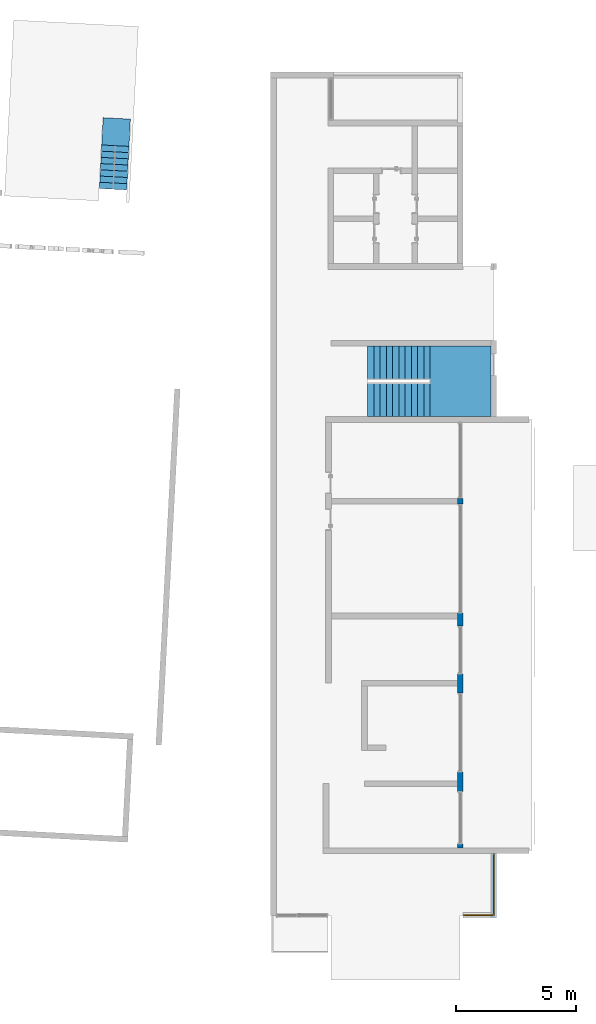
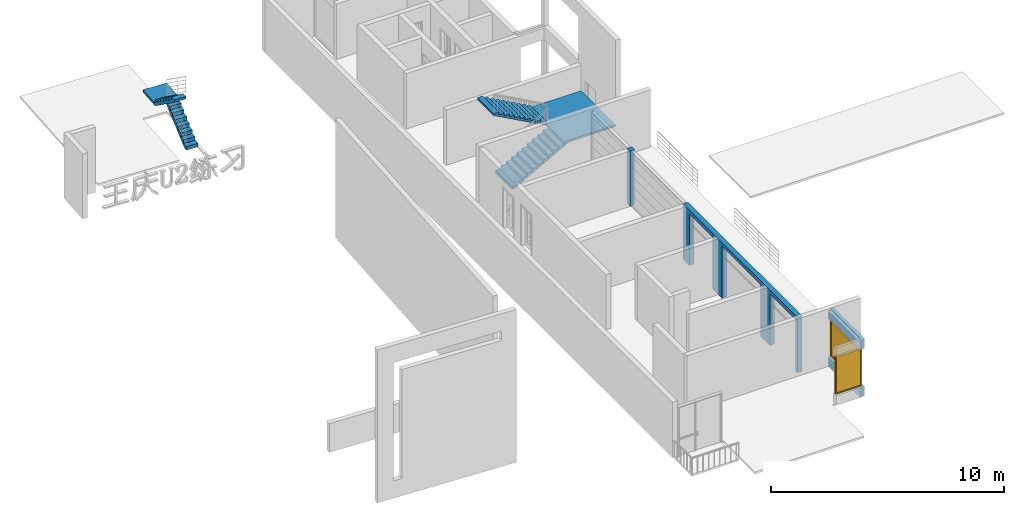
# One storey, part 12 of 16: 2 stair flights, 1 wall, 1 window, 1 opening, 2 elements without a shape of their own, plus 1 element that does not belong to this part.
"""IFC2X3 building model written with IfcOpenShell, lengths in millimetres."""

import ifcopenshell
import ifcopenshell.guid

model = None  # the IFC model being written
_history = None  # IfcOwnerHistory: only IFC2X3 demands one
_inside = {}  # id of a spatial element -> (the spatial element, [elements in it])
_under = {}  # id of a project, library or spatial element -> (it, [spatial elements below it])
_declared = {}  # id of a project -> (the project, [libraries it declares])
_typed = {}  # id of a type object -> (the type object, [elements of that type])
_made_of = {}  # id of a material, layer set ... -> (it, [elements and type objects made of it])


def new_model(schema):
    """Start an empty IFC model of exactly this schema.

    Asked for "IFC4X3", IfcOpenShell would pick the latest addendum, in which some entities
    have other attributes; the version numbers below select the first issue.
    IFC2X3 requires an IfcOwnerHistory on every rooted entity: one is made here for all.
    """
    global model, _history
    if schema == "IFC4X3":
        model = ifcopenshell.file(schema_version=(4, 3, 0, 0))
    else:
        model = ifcopenshell.file(schema=schema)
    _inside.clear()
    _under.clear()
    _declared.clear()
    _typed.clear()
    _made_of.clear()
    _history = None
    if model.schema == "IFC2X3":
        org = make("IfcOrganization", Name="unknown")
        user = make(
            "IfcPersonAndOrganization",
            ThePerson=make("IfcPerson", FamilyName="unknown"),
            TheOrganization=org,
        )
        app = make(
            "IfcApplication",
            ApplicationDeveloper=org,
            Version="unknown",
            ApplicationFullName="unknown",
            ApplicationIdentifier="unknown",
        )
        _history = make(
            "IfcOwnerHistory",
            OwningUser=user,
            OwningApplication=app,
            ChangeAction="ADDED",
            CreationDate=0,
        )
    return model


def make(cls, **values):
    """One entity of the class cls with the attributes given. An attribute that is None is left unset."""
    return model.create_entity(
        cls, **{name: value for name, value in values.items() if value is not None}
    )


def entity(cls, *values):
    """Any entity or typed value of the class cls, its attributes in the order of the schema. None: left unset."""
    e = model.create_entity(cls)
    for i, value in enumerate(values):
        if value is not None:
            e[i] = value
    return e


def rooted(cls, **values):
    """An entity with a GlobalId (a new one), such as an element, a storey or a relation."""
    return make(cls, GlobalId=ifcopenshell.guid.new(), OwnerHistory=_history, **values)


def si_unit(unit_type, name, prefix=None):
    """IfcSIUnit, for example si_unit("LENGTHUNIT", "METRE", prefix="MILLI")."""
    return make("IfcSIUnit", UnitType=unit_type, Prefix=prefix, Name=name)


def converted_unit(unit_type, name, factor, base, dimensions=None, offset=None):
    """IfcConversionBasedUnit, such as the inch: factor (a typed value) times the base unit."""
    return make(
        "IfcConversionBasedUnit"
        if offset is None
        else "IfcConversionBasedUnitWithOffset",
        ConversionOffset=offset,
        Dimensions=None
        if dimensions is None
        else entity("IfcDimensionalExponents", *dimensions),
        UnitType=unit_type,
        Name=name,
        ConversionFactor=make(
            "IfcMeasureWithUnit", ValueComponent=factor, UnitComponent=base
        ),
    )


def derived_unit(unit_type, elements):
    """IfcDerivedUnit: a product of units, each with its exponent."""
    return make(
        "IfcDerivedUnit",
        Elements=[
            make("IfcDerivedUnitElement", Unit=unit, Exponent=power)
            for unit, power in elements
        ],
        UnitType=unit_type,
    )


def assignment(units):
    """IfcUnitAssignment: the units of a project."""
    return None if units is None else make("IfcUnitAssignment", Units=units)


def point(xyz):
    """IfcCartesianPoint."""
    return None if xyz is None else make("IfcCartesianPoint", Coordinates=xyz)


def direction(xyz):
    """IfcDirection."""
    return None if xyz is None else make("IfcDirection", DirectionRatios=xyz)


def frame(location, z_axis=None, x_axis=None):
    """IfcAxis2Placement3D, a coordinate frame: its origin and axes. An axis left out is left unset."""
    return make(
        "IfcAxis2Placement3D",
        Location=point(location),
        Axis=direction(z_axis),
        RefDirection=direction(x_axis),
    )


def frame_2d(location, x_axis=None):
    """IfcAxis2Placement2D, a coordinate frame in the plane: its origin and x axis."""
    return make(
        "IfcAxis2Placement2D", Location=point(location), RefDirection=direction(x_axis)
    )


def origin():
    """The frame at (0, 0, 0) with its axes left unset."""
    return frame((0.0, 0.0, 0.0))


def place(relative_to, where):
    """IfcLocalPlacement: puts the frame where relative to a parent placement (None: the world)."""
    return make(
        "IfcLocalPlacement", PlacementRelTo=relative_to, RelativePlacement=where
    )


def context(
    kind, dimensions, precision=None, world=None, true_north=None, identifier=None
):
    """IfcGeometricRepresentationContext, for example the 3D "Model" context."""
    return make(
        "IfcGeometricRepresentationContext",
        ContextIdentifier=identifier,
        ContextType=kind,
        CoordinateSpaceDimension=dimensions,
        Precision=precision,
        WorldCoordinateSystem=world,
        TrueNorth=true_north,
    )


def subcontext(parent, identifier, kind, view, scale=None):
    """IfcGeometricRepresentationSubContext, for example "Body" below "Model"."""
    return make(
        "IfcGeometricRepresentationSubContext",
        ContextIdentifier=identifier,
        ContextType=kind,
        ParentContext=parent,
        TargetScale=scale,
        TargetView=view,
    )


def project(units=None, contexts=None):
    """IfcProject with its units and contexts."""
    return rooted(
        "IfcProject",
        Name="project",
        RepresentationContexts=contexts,
        UnitsInContext=assignment(units),
    )


def spatial(cls, under=None, at=None, **own):
    """A site, building, storey or space (cls), placed at a placement, below another one or the project."""
    s = rooted(cls, ObjectPlacement=at, **own)
    if under is not None:
        _under.setdefault(under.id(), (under, []))[1].append(s)
    return s


def polyline(points):
    """IfcPolyline through the points."""
    return make("IfcPolyline", Points=[point(p) for p in points])


def profile(cls, at=None, kind="AREA", **sizes):
    """A parametric profile (cls). Its sizes go by their IFC names, for example OverallWidth=200.0."""
    return make(cls, ProfileType=kind, Position=at, **sizes)


def rectangle(**sizes):
    """IfcRectangleProfileDef."""
    return profile("IfcRectangleProfileDef", **sizes)


def extrude(swept, where, along, depth):
    """IfcExtrudedAreaSolid: the profile swept, set in the frame where, extruded along a direction by depth."""
    return make(
        "IfcExtrudedAreaSolid",
        SweptArea=swept,
        Position=where,
        ExtrudedDirection=direction(along),
        Depth=depth,
    )


def clip(a, b, op="DIFFERENCE"):
    """IfcBooleanClippingResult: the solid a cut by the half space b."""
    return make(
        "IfcBooleanClippingResult", Operator=op, FirstOperand=a, SecondOperand=b
    )


def bounded_halfspace(plane, agree, where, boundary):
    """IfcPolygonalBoundedHalfSpace: a half space limited to a polygon's prism."""
    return make(
        "IfcPolygonalBoundedHalfSpace",
        BaseSurface=make("IfcPlane", Position=plane),
        AgreementFlag=agree,
        Position=where,
        PolygonalBoundary=boundary,
    )


def faces_of(points, faces, orient=None, outer=None):
    """IfcFace entities. A face is a list of loops; a loop is a list of indices into points, from 0.

    orient and outer hold one flag for each loop. By default every Orientation is true, the
    first loop of a face is its IfcFaceOuterBound and the others are IfcFaceBound.
    """
    made = []
    for i, loops in enumerate(faces):
        bounds = []
        for j, loop in enumerate(loops):
            is_outer = j == 0 if outer is None else outer[i][j]
            bounds.append(
                make(
                    "IfcFaceOuterBound" if is_outer else "IfcFaceBound",
                    Bound=make("IfcPolyLoop", Polygon=[points[k] for k in loop]),
                    Orientation=True if orient is None else orient[i][j],
                )
            )
        made.append(make("IfcFace", Bounds=bounds))
    return made


def faceted_brep(points, faces, orient=None, outer=None, voids=None):
    """IfcFacetedBrep: a solid bounded by flat faces; with voids (closed shells), ...WithVoids."""
    shared = [point(p) for p in points]
    hull = make("IfcClosedShell", CfsFaces=faces_of(shared, faces, orient, outer))
    if voids is None:
        return make("IfcFacetedBrep", Outer=hull)
    return make(
        "IfcFacetedBrepWithVoids",
        Outer=hull,
        Voids=[
            make(cls, CfsFaces=faces_of(shared, fs, o, b)) for cls, fs, o, b in voids
        ],
    )


def shape(context_of_items, identifier, shape_type, items):
    """IfcShapeRepresentation: the items that make up one representation, for example the "Body"."""
    return make(
        "IfcShapeRepresentation",
        ContextOfItems=context_of_items,
        RepresentationIdentifier=identifier,
        RepresentationType=shape_type,
        Items=items,
    )


def source(mapping_origin, context_of_items, identifier, shape_type, items):
    """IfcRepresentationMap: a shape defined once, which mapped items show again and again."""
    return make(
        "IfcRepresentationMap",
        MappingOrigin=mapping_origin,
        MappedRepresentation=shape(context_of_items, identifier, shape_type, items),
    )


def transform(
    local_origin,
    x_axis=None,
    y_axis=None,
    z_axis=None,
    scale=None,
    scale2=None,
    scale3=None,
    uniform=True,
):
    """IfcCartesianTransformationOperator3D, or its non-uniform kind. x_axis, y_axis, z_axis: its Axis1, 2, 3."""
    if uniform:
        return make(
            "IfcCartesianTransformationOperator3D",
            Axis1=direction(x_axis),
            Axis2=direction(y_axis),
            LocalOrigin=point(local_origin),
            Scale=scale,
            Axis3=direction(z_axis),
        )
    return make(
        "IfcCartesianTransformationOperator3DnonUniform",
        Axis1=direction(x_axis),
        Axis2=direction(y_axis),
        LocalOrigin=point(local_origin),
        Scale=scale,
        Axis3=direction(z_axis),
        Scale2=scale2,
        Scale3=scale3,
    )


def mapped(mapping_source, mapping_target):
    """IfcMappedItem: shows the shape of a source again, moved by a transform."""
    return make(
        "IfcMappedItem", MappingSource=mapping_source, MappingTarget=mapping_target
    )


def material(Name=None, Category=None):
    """IfcMaterial."""
    return make("IfcMaterial", Name=Name, Category=Category)


def material_list(materials):
    """IfcMaterialList."""
    return make("IfcMaterialList", Materials=materials)


def layer(
    of_material, thickness, ventilated=None, Name=None, Category=None, Priority=None
):
    """IfcMaterialLayer: one layer of a wall or slab, of a material (None: an air gap)."""
    return make(
        "IfcMaterialLayer",
        Material=of_material,
        LayerThickness=thickness,
        IsVentilated=ventilated,
        Name=Name,
        Category=Category,
        Priority=Priority,
    )


def layer_set(layers, Name=None):
    """IfcMaterialLayerSet."""
    return make("IfcMaterialLayerSet", MaterialLayers=layers, LayerSetName=Name)


def layer_usage(for_layer_set, set_direction, sense, offset, extent=None):
    """IfcMaterialLayerSetUsage: how a layer set lies in its element."""
    return make(
        "IfcMaterialLayerSetUsage",
        ForLayerSet=for_layer_set,
        LayerSetDirection=set_direction,
        DirectionSense=sense,
        OffsetFromReferenceLine=offset,
        ReferenceExtent=extent,
    )


def made_of(thing, what):
    """Note that an element or type object is made of a material, layer set ...; save() writes the relation."""
    if what is not None:
        _made_of.setdefault(what.id(), (what, []))[1].append(thing)
    return thing


def type_object(cls, material=None, **own):
    """A type object (cls), such as IfcWallType, which elements share."""
    return made_of(rooted(cls, **own), material)


def type_shapes(of_type, sources):
    """Give a type object the sources (RepresentationMaps) that its elements show as mapped items."""
    of_type.RepresentationMaps = sources


def element(
    cls,
    number,
    at=None,
    inside=None,
    cuts=None,
    type_object=None,
    material=None,
    context=None,
    identifier="Body",
    shape_type=None,
    held_by="IfcProductDefinitionShape",
    body=None,
    shapes=None,
    **own,
):
    """One element of the class cls, such as IfcWall. Its Tag is "e" and its number.

    at: its placement. inside: the storey or other place that contains it. cuts: it is an
    opening in that element (IfcRelVoidsElement). A single representation is given by context,
    identifier, shape_type and body (its items); several are given by shapes. held_by: the class
    of the entity that holds the representations. save() writes the other relations.
    """
    e = rooted(cls, Tag="e%d" % number, ObjectPlacement=at, **own)
    if body is not None:
        shapes = [shape(context, identifier, shape_type, body)]
    if shapes is not None:
        e.Representation = make(held_by, Representations=shapes)
    if inside is not None:
        _inside.setdefault(inside.id(), (inside, []))[1].append(e)
    if cuts is not None:
        rooted(
            "IfcRelVoidsElement", RelatingBuildingElement=cuts, RelatedOpeningElement=e
        )
    if type_object is not None:
        _typed.setdefault(type_object.id(), (type_object, []))[1].append(e)
    return made_of(e, material)


def fill(opening, filler):
    """IfcRelFillsElement: the door or window that sits in an opening."""
    return rooted(
        "IfcRelFillsElement",
        RelatingOpeningElement=opening,
        RelatedBuildingElement=filler,
    )


def aggregate(whole, parts):
    """IfcRelAggregates: a whole, such as a stair, and the parts it consists of."""
    return rooted("IfcRelAggregates", RelatingObject=whole, RelatedObjects=parts)


def save(model, path):
    """Write the relations noted so far, then the file.

    IfcRelAggregates (storeys below a building ...), IfcRelContainedInSpatialStructure (elements
    in a storey), IfcRelDefinesByType, IfcRelAssociatesMaterial and IfcRelDeclares: one each for
    every whole, place, type object, material and project.
    """
    for whole, parts in _under.values():
        aggregate(whole, parts)
    for where, things in _inside.values():
        rooted(
            "IfcRelContainedInSpatialStructure",
            RelatedElements=things,
            RelatingStructure=where,
        )
    for kind, things in _typed.values():
        rooted("IfcRelDefinesByType", RelatedObjects=things, RelatingType=kind)
    for what, things in _made_of.values():
        rooted("IfcRelAssociatesMaterial", RelatedObjects=things, RelatingMaterial=what)
    for by, libraries in _declared.values():
        rooted("IfcRelDeclares", RelatingContext=by, RelatedDefinitions=libraries)
    model.write(path)


model = new_model("IFC2X3")

# Units and contexts
model_context = context("Model", 3, precision=0.01, world=origin(), true_north=direction((6.12303176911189e-17, 1.0)))
body_context = subcontext(model_context, "Body", "Model", "MODEL_VIEW")
ifc_project = project(units=[si_unit("LENGTHUNIT", "METRE", prefix="MILLI"), si_unit("AREAUNIT", "SQUARE_METRE"), si_unit("VOLUMEUNIT", "CUBIC_METRE"), converted_unit("PLANEANGLEUNIT", "DEGREE", entity("IfcRatioMeasure", 0.0174532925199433), si_unit("PLANEANGLEUNIT", "RADIAN"), dimensions=[0, 0, 0, 0, 0, 0, 0]), si_unit("MASSUNIT", "GRAM", prefix="KILO"), derived_unit("MASSDENSITYUNIT", [(si_unit("MASSUNIT", "GRAM", prefix="KILO"), 1), (si_unit("LENGTHUNIT", "METRE"), -3)]), si_unit("TIMEUNIT", "SECOND"), si_unit("FREQUENCYUNIT", "HERTZ"), si_unit("THERMODYNAMICTEMPERATUREUNIT", "DEGREE_CELSIUS"), derived_unit("THERMALTRANSMITTANCEUNIT", [(si_unit("MASSUNIT", "GRAM", prefix="KILO"), 1), (si_unit("THERMODYNAMICTEMPERATUREUNIT", "KELVIN"), -1), (si_unit("TIMEUNIT", "SECOND"), -3)]), derived_unit("VOLUMETRICFLOWRATEUNIT", [(si_unit("LENGTHUNIT", "METRE"), 3), (si_unit("TIMEUNIT", "SECOND"), -1)]), si_unit("ELECTRICCURRENTUNIT", "AMPERE"), si_unit("ELECTRICVOLTAGEUNIT", "VOLT"), si_unit("POWERUNIT", "WATT"), si_unit("FORCEUNIT", "NEWTON", prefix="KILO"), si_unit("ILLUMINANCEUNIT", "LUX"), si_unit("LUMINOUSFLUXUNIT", "LUMEN"), si_unit("LUMINOUSINTENSITYUNIT", "CANDELA"), derived_unit("USERDEFINED", [(si_unit("MASSUNIT", "GRAM", prefix="KILO"), -1), (si_unit("LENGTHUNIT", "METRE"), -2), (si_unit("TIMEUNIT", "SECOND"), 3), (si_unit("LUMINOUSFLUXUNIT", "LUMEN"), 1)]), derived_unit("LINEARVELOCITYUNIT", [(si_unit("LENGTHUNIT", "METRE"), 1), (si_unit("TIMEUNIT", "SECOND"), -1)]), si_unit("PRESSUREUNIT", "PASCAL"), derived_unit("USERDEFINED", [(si_unit("LENGTHUNIT", "METRE"), -2), (si_unit("MASSUNIT", "GRAM", prefix="KILO"), 1), (si_unit("TIMEUNIT", "SECOND"), -2)])], contexts=[model_context])

# Site, building, storey
site_placement = place(None, origin())
site = spatial("IfcSite", under=ifc_project, at=site_placement, Name="表面", CompositionType="ELEMENT")
building_placement = place(site_placement, origin())
building = spatial("IfcBuilding", under=site, at=building_placement, CompositionType="ELEMENT")
storey_placement = place(building_placement, frame((0.0, 0.0, 3000.0)))
storey = spatial("IfcBuildingStorey", under=building, at=storey_placement, Name="2F", CompositionType="ELEMENT", Elevation=3000.00000000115)

# Wall
ifc_material_1 = material(Name="白色涂料")
ifc_layer_1 = layer(ifc_material_1, 10.0)
ifc_material_2 = material(Name="默认墙")
ifc_layer_2 = layer(ifc_material_2, 220.0)
ifc_layer_3 = layer(ifc_material_1, 10.0)
ifc_layer_set = layer_set([ifc_layer_1, ifc_layer_2, ifc_layer_3], Name="基本墙:粉刷墙240")
wall_type = type_object("IfcWallType", Name="基本墙:粉刷墙240", PredefinedType="STANDARD", material=ifc_layer_set)
wall_1_placement = place(storey_placement, frame((-6630.24991264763, -11996.868426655, 0.0), z_axis=(0.0, 0.0, 1.0), x_axis=(0.0, -1.0, 0.0)))
element("IfcWall", 1, at=wall_1_placement, inside=storey, type_object=wall_type, Name="基本墙:粉刷墙240", ObjectType="基本墙:粉刷墙240", context=body_context, shape_type="Brep", body=[
    faceted_brep([(0.0, -120.0, 2900.0), (0.0, -120.0, 0.0), (240.0, -120.0, 0.0), (240.0, -120.0, 2900.0), (0.0, 120.0, 0.0), (240.0, 120.0, 0.0), (0.0, 120.0, 2900.0), (240.0, 120.0, 2900.0)], [[[0, 1, 2, 3]], [[1, 4, 5, 2]], [[1, 0, 6, 4]], [[3, 2, 5, 7]], [[6, 0, 3, 7]], [[4, 6, 7, 5]]]),
    faceted_brep([(14600.0, 120.0, 2900.0), (14600.0, 120.0, 0.0), (14440.0, 120.0, 0.0), (14440.0, 120.0, 2700.0), (12240.0, 120.0, 2700.0), (12240.0, 120.0, 0.0), (11440.0, 120.0, 0.0), (11440.0, 120.0, 2700.0), (8140.0, 120.0, 2700.0), (8140.0, 120.0, 0.0), (7340.0, 120.0, 0.0), (7340.0, 120.0, 2700.0), (5340.0, 120.0, 2700.0), (5340.0, 120.0, 0.0), (4800.0, 120.0, 0.0), (4800.0, 120.0, 2900.0), (14600.0, -120.0, 2900.0), (14600.0, -120.0, 0.0), (4800.0, -120.0, 0.0), (4800.0, -120.0, 2900.0), (5340.0, -120.0, 2700.0), (5340.0, -120.0, 0.0), (7340.0, -120.0, 2700.0), (7340.0, -120.0, 0.0), (8140.0, -120.0, 2700.0), (8140.0, -120.0, 0.0), (11440.0, -120.0, 2700.0), (11440.0, -120.0, 0.0), (12240.0, -120.0, 2700.0), (12240.0, -120.0, 0.0), (14440.0, -120.0, 2700.0), (14440.0, -120.0, 0.0), (5040.0, -120.0, 2900.0), (7600.0, -120.0, 2900.0), (7840.0, -120.0, 2900.0), (11800.0, -120.0, 2900.0), (12040.0, -120.0, 2900.0), (5040.0, -120.0, 0.0), (7840.0, -120.0, 0.0), (7600.0, -120.0, 0.0), (12040.0, -120.0, 0.0), (11800.0, -120.0, 0.0)], [[[0, 1, 2, 3, 4, 5, 6, 7, 8, 9, 10, 11, 12, 13, 14, 15]], [[16, 17, 1, 0]], [[18, 19, 15, 14]], [[12, 20, 21, 13]], [[20, 12, 11, 22]], [[22, 11, 10, 23]], [[8, 24, 25, 9]], [[24, 8, 7, 26]], [[26, 7, 6, 27]], [[4, 28, 29, 5]], [[28, 4, 3, 30]], [[30, 3, 2, 31]], [[16, 0, 15, 19, 32, 33, 34, 35, 36]], [[18, 14, 13, 21, 37]], [[23, 10, 9, 25, 38, 39]], [[27, 6, 5, 29, 40, 41]], [[1, 17, 31, 2]], [[17, 16, 36, 35, 34, 33, 32, 19, 18, 37, 21, 20, 22, 23, 39, 38, 25, 24, 26, 27, 41, 40, 29, 28, 30, 31]]]),
])

# Wall, opening, window
ifc_layer_usage = layer_usage(ifc_layer_set, "AXIS2", "NEGATIVE", 120.0)
wall_2_placement = place(storey_placement, frame((-5230.24991264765, -26836.868426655, 0.0), z_axis=(0.0, 0.0, 1.0), x_axis=(0.0, -1.0, 0.0)))
wall_2 = element("IfcWallStandardCase", 2, at=wall_2_placement, inside=storey, type_object=wall_type, material=ifc_layer_usage, Name="基本墙:粉刷墙240", ObjectType="基本墙:粉刷墙240", context=body_context, shape_type="Clipping", body=[
    clip(clip(clip(clip(extrude(rectangle(XDim=2700.0, YDim=240.0, at=frame_2d((1350.0, 2.8421709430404e-14), x_axis=(-1.0, 0.0))), origin(), (0.0, 0.0, 1.0), 3000.0), bounded_halfspace(frame((0.0, -120.0, 2900.0), z_axis=(0.0, 0.0, -1.0), x_axis=(1.0, 0.0, 0.0)), True, frame((0.0, -120.0, 2900.0)), polyline([(0.0, 0.0), (2460.0, 0.0), (2580.0, 0.0), (2580.0, 120.0), (0.0, 120.0), (0.0, 0.0)]))), bounded_halfspace(frame((2700.0, 0.0, 3000.0), z_axis=(0.0, 0.0, -1.0), x_axis=(0.0, -1.0, 0.0)), True, frame((2700.0, 0.0, 3000.0)), polyline([(0.0, 0.0), (0.0, 120.0), (-2700.0, 120.0), (-2700.0, 0.0), (-120.0, 0.0), (0.0, 0.0)]))), bounded_halfspace(frame((2580.0, -120.0, 3000.0), z_axis=(0.0, 0.0, -1.0), x_axis=(0.0, -1.0, 0.0)), True, frame((2580.0, -120.0, 3000.0)), polyline([(0.0, 0.0), (120.0, 0.0), (120.0, 120.0), (0.0, 120.0), (0.0, 0.0)]))), bounded_halfspace(frame((0.0, -120.0, 2900.0), z_axis=(0.0, 0.0, -1.0), x_axis=(1.0, 0.0, 0.0)), True, frame((0.0, -120.0, 2900.0)), polyline([(0.0, 0.0), (2460.0, 0.0), (2580.0, 0.0), (2580.0, 120.0), (0.0, 120.0), (0.0, 0.0)]))),
])
opening_placement = place(wall_2_placement, frame((2700.0, -1280.0, 500.0), z_axis=(0.0, 0.0, 1.0), x_axis=(0.0, 1.0, 0.0)))
opening = element("IfcOpeningElement", 3, at=opening_placement, cuts=wall_2, Name="基本墙:粉刷墙240", ObjectType="Opening", context=body_context, shape_type="Brep", body=[
    faceted_brep([(1160.0, 2700.0, 0.0), (1160.0, 2700.0, 2000.0), (1400.0, 2700.0, 2000.0), (1400.0, 2700.0, 0.0), (1160.0, 240.0, 0.0), (1160.0, 240.0, 2000.0), (0.0, 240.0, 2000.0), (0.0, 0.0, 2000.0), (1400.0, 0.0, 2000.0), (1400.0, 0.0, 0.0), (0.0, 0.0, 0.0), (0.0, 240.0, 0.0)], [[[0, 1, 2, 3]], [[1, 0, 4, 5]], [[2, 1, 5, 6, 7, 8]], [[3, 2, 8, 9]], [[0, 3, 9, 10, 11, 4]], [[11, 10, 7, 6]], [[5, 4, 11, 6]], [[9, 8, 7, 10]]]),
])
ifc_material_3 = material(Name="玻璃")
ifc_material_4 = material(Name="铝")
ifc_material_list_1 = material_list([ifc_material_3, ifc_material_4])
ifc_material_list_2 = material_list([ifc_material_3, ifc_material_4])
window_style = type_object("IfcWindowStyle", Name="C1326", ConstructionType="NOTDEFINED", OperationType="NOTDEFINED", ParameterTakesPrecedence=False, Sizeable=False, material=ifc_material_list_2)
shared_shape = source(origin(), body_context, "Body", "Brep", [
    faceted_brep([(2590.0, -1340.0, 1940.0), (2590.0, -1340.0, 60.0), (2590.0, -150.0, 60.0), (2590.0, -150.0, 1940.0), (2570.0, -1340.0, 1940.0), (2570.0, -1340.0, 60.0), (2570.0, -150.0, 60.0), (2570.0, -150.0, 1940.0)], [[[0, 1, 2, 3]], [[1, 0, 4, 5]], [[2, 1, 5, 6]], [[3, 2, 6, 7]], [[4, 7, 6, 5]], [[0, 3, 7, 4]]]),
    faceted_brep([(2550.0, -130.0, 1940.0), (60.0, -130.0, 1940.0), (60.0, -130.0, 60.0), (2550.0, -130.0, 60.0), (60.0, -110.0, 1940.0), (60.0, -110.0, 60.0), (2550.0, -110.0, 60.0), (2550.0, -110.0, 1940.0)], [[[0, 1, 2, 3]], [[2, 1, 4, 5]], [[3, 2, 5, 6]], [[0, 3, 6, 7]], [[7, 6, 5, 4]], [[1, 0, 7, 4]]]),
    faceted_brep([(0.0, -90.0, 2000.0), (0.0, -90.0, 0.0), (0.0, -150.0, 0.0), (0.0, -150.0, 2000.0), (2610.0, -90.0, 2000.0), (2610.0, -90.0, 0.0), (2550.0, -90.0, 60.0), (2550.0, -90.0, 1940.0), (60.0, -90.0, 1940.0), (60.0, -90.0, 60.0), (2610.0, -1400.0, 0.0), (2550.0, -1400.0, 0.0), (2550.0, -150.0, 0.0), (2550.0, -150.0, 60.0), (60.0, -150.0, 60.0), (60.0, -150.0, 1940.0), (2550.0, -150.0, 1940.0), (2550.0, -150.0, 2000.0), (2610.0, -1400.0, 2000.0), (2610.0, -1340.0, 1940.0), (2610.0, -150.0, 1940.0), (2610.0, -150.0, 60.0), (2610.0, -1340.0, 60.0), (2550.0, -1400.0, 2000.0), (2550.0, -1340.0, 60.0), (2550.0, -1340.0, 1940.0)], [[[0, 1, 2, 3]], [[1, 0, 4, 5], [6, 7, 8, 9]], [[2, 1, 5, 10, 11, 12]], [[3, 2, 12, 13, 14, 15, 16, 17]], [[5, 4, 18, 10], [19, 20, 21, 22]], [[16, 7, 6, 13]], [[14, 9, 8, 15]], [[13, 6, 9, 14]], [[11, 10, 18, 23]], [[20, 16, 13, 21]], [[21, 13, 24, 22]], [[25, 19, 22, 24]], [[0, 3, 17, 23, 18, 4]], [[7, 16, 15, 8]], [[16, 20, 19, 25]], [[12, 11, 23, 17, 16, 25, 24, 13]]]),
])
type_shapes(window_style, [shared_shape])
window_placement = place(opening_placement, frame((1400.0, 2700.0, 0.0), z_axis=(0.0, 0.0, 1.0), x_axis=(0.0, -1.0, 0.0)))
window = element("IfcWindow", 4, at=window_placement, inside=storey, type_object=window_style, material=ifc_material_list_1, Name="转角窗:C1326", ObjectType="C1326", OverallHeight=2000.00000000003, OverallWidth=2700.0, context=body_context, shape_type="MappedRepresentation", body=[
    mapped(shared_shape, transform((0.0, 0.0, 0.0), scale=1.0)),
])
fill(opening, window)

# Stair, stair flight
stair_1_placement = place(storey_placement, origin())
stair_1 = element("IfcStair", 5, at=stair_1_placement, inside=storey, ShapeType="NOTDEFINED")
ifc_material_5 = material(Name="混凝土 - 现场浇注")
stair_flight_1_placement = place(stair_1_placement, origin())
stair_flight_1 = element("IfcStairFlight", 6, at=stair_flight_1_placement, material=ifc_material_5, Name="楼梯:整体式楼梯:1", ObjectType="楼梯:整体式楼梯", NumberOfRiser=11, NumberOfTreads=10, RiserHeight=0.468691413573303, TreadLength=0.853018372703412, context=body_context, shape_type="Brep", body=[
    faceted_brep([(-10324.1193615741, -7187.84591297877, 0.0), (-7646.11936157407, -7187.84591297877, 1471.42857142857), (-7646.11936157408, -8587.84591297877, 1471.42857142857), (-7890.24991264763, -8587.84591297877, 1337.29090600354), (-10324.1193615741, -8587.84591297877, 0.0), (-7890.24991264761, -7027.84591297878, 1471.42857142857), (-7874.38046372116, -7027.84591297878, 1471.42857142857), (-7874.38046372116, -5627.84591297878, 1471.42857142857), (-5350.24991264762, -5627.84591297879, 1471.42857142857), (-5350.24991264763, -8587.84591297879, 1471.42857142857), (-7890.24991264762, -7187.84591297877, 1471.42857142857), (-7890.24991264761, -7027.84591297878, 1480.14804886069), (-10490.2499126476, -7027.84591297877, 2908.71947743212), (-10490.2499126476, -5627.84591297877, 2908.71947743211), (-10230.2499126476, -7187.84591297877, 142.857142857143), (-10490.2499126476, -7187.84591297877, 142.857142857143), (-10490.2499126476, -8587.84591297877, 142.857142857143), (-10230.2499126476, -8587.84591297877, 142.857142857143), (-10230.2499126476, -7187.84591297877, 285.714285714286), (-9970.24991264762, -7187.84591297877, 285.714285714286), (-9970.24991264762, -7187.84591297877, 428.571428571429), (-9710.24991264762, -7187.84591297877, 428.571428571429), (-9710.24991264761, -7187.84591297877, 571.428571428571), (-9450.24991264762, -7187.84591297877, 571.428571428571), (-9450.24991264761, -7187.84591297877, 714.285714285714), (-9190.24991264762, -7187.84591297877, 714.285714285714), (-9190.24991264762, -7187.84591297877, 857.142857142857), (-8930.24991264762, -7187.84591297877, 857.142857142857), (-8930.24991264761, -7187.84591297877, 1000.0), (-8670.24991264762, -7187.84591297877, 1000.0), (-8670.24991264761, -7187.84591297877, 1142.85714285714), (-8410.24991264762, -7187.84591297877, 1142.85714285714), (-8410.24991264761, -7187.84591297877, 1285.71428571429), (-8150.24991264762, -7187.84591297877, 1285.71428571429), (-8150.24991264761, -7187.84591297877, 1428.57142857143), (-7890.24991264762, -7187.84591297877, 1428.57142857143), (-10490.2499126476, -7187.84591297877, 0.0), (-10490.2499126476, -8587.84591297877, 0.0), (-5350.24991264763, -8587.84591297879, 1571.42857142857), (-7890.24991264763, -8587.84591297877, 1571.42857142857), (-7890.24991264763, -8587.84591297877, 1428.57142857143), (-8150.24991264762, -8587.84591297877, 1428.57142857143), (-8150.24991264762, -8587.84591297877, 1285.71428571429), (-8410.24991264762, -8587.84591297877, 1285.71428571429), (-8410.24991264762, -8587.84591297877, 1142.85714285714), (-8670.24991264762, -8587.84591297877, 1142.85714285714), (-8670.24991264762, -8587.84591297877, 1000.0), (-8930.24991264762, -8587.84591297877, 1000.0), (-8930.24991264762, -8587.84591297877, 857.142857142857), (-9190.24991264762, -8587.84591297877, 857.142857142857), (-9190.24991264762, -8587.84591297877, 714.285714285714), (-9450.24991264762, -8587.84591297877, 714.285714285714), (-9450.24991264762, -8587.84591297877, 571.428571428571), (-9710.24991264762, -8587.84591297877, 571.428571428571), (-9710.24991264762, -8587.84591297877, 428.571428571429), (-9970.24991264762, -8587.84591297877, 428.571428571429), (-9970.24991264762, -8587.84591297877, 285.714285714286), (-10230.2499126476, -8587.84591297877, 285.714285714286), (-5350.24991264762, -5627.84591297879, 1571.42857142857), (-7890.24991264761, -5627.84591297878, 1571.42857142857), (-7890.24991264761, -7027.84591297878, 1571.42857142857), (-7890.24991264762, -7187.84591297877, 1571.42857142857), (-10490.2499126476, -5627.84591297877, 3000.0), (-10230.2499126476, -5627.84591297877, 3000.0), (-10230.2499126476, -5627.84591297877, 2857.14285714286), (-9970.24991264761, -5627.84591297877, 2857.14285714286), (-9970.24991264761, -5627.84591297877, 2714.28571428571), (-9710.24991264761, -5627.84591297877, 2714.28571428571), (-9710.24991264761, -5627.84591297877, 2571.42857142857), (-9450.24991264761, -5627.84591297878, 2571.42857142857), (-9450.24991264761, -5627.84591297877, 2428.57142857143), (-9190.24991264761, -5627.84591297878, 2428.57142857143), (-9190.24991264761, -5627.84591297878, 2285.71428571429), (-8930.24991264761, -5627.84591297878, 2285.71428571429), (-8930.24991264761, -5627.84591297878, 2142.85714285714), (-8670.24991264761, -5627.84591297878, 2142.85714285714), (-8670.24991264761, -5627.84591297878, 2000.0), (-8410.24991264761, -5627.84591297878, 2000.0), (-8410.24991264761, -5627.84591297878, 1857.14285714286), (-8150.24991264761, -5627.84591297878, 1857.14285714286), (-8150.24991264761, -5627.84591297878, 1714.28571428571), (-7890.24991264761, -5627.84591297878, 1714.28571428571), (-8150.24991264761, -7027.84591297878, 1714.28571428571), (-7890.24991264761, -7027.84591297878, 1714.28571428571), (-8150.24991264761, -7027.84591297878, 1857.14285714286), (-8410.24991264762, -7027.84591297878, 1857.14285714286), (-8410.24991264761, -7027.84591297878, 2000.0), (-8670.24991264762, -7027.84591297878, 2000.0), (-8670.24991264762, -7027.84591297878, 2142.85714285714), (-8930.24991264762, -7027.84591297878, 2142.85714285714), (-8930.24991264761, -7027.84591297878, 2285.71428571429), (-9190.24991264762, -7027.84591297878, 2285.71428571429), (-9190.24991264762, -7027.84591297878, 2428.57142857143), (-9450.24991264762, -7027.84591297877, 2428.57142857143), (-9450.24991264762, -7027.84591297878, 2571.42857142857), (-9710.24991264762, -7027.84591297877, 2571.42857142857), (-9710.24991264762, -7027.84591297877, 2714.28571428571), (-9970.24991264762, -7027.84591297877, 2714.28571428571), (-9970.24991264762, -7027.84591297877, 2857.14285714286), (-10230.2499126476, -7027.84591297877, 2857.14285714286), (-10230.2499126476, -7027.84591297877, 3000.0), (-10490.2499126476, -7027.84591297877, 3000.0)], [[[0, 1, 2, 3, 4]], [[5, 6, 7, 8, 9, 2, 1, 10]], [[7, 6, 11, 12, 13]], [[14, 15, 16, 17]], [[15, 14, 18, 19, 20, 21, 22, 23, 24, 25, 26, 27, 28, 29, 30, 31, 32, 33, 34, 35, 10, 1, 0, 36]], [[16, 15, 36, 37]], [[17, 16, 37, 4, 3, 2, 9, 38, 39, 40, 41, 42, 43, 44, 45, 46, 47, 48, 49, 50, 51, 52, 53, 54, 55, 56, 57]], [[19, 18, 57, 56]], [[14, 17, 57, 18]], [[21, 20, 55, 54]], [[20, 19, 56, 55]], [[23, 22, 53, 52]], [[22, 21, 54, 53]], [[25, 24, 51, 50]], [[24, 23, 52, 51]], [[27, 26, 49, 48]], [[26, 25, 50, 49]], [[29, 28, 47, 46]], [[28, 27, 48, 47]], [[31, 30, 45, 44]], [[30, 29, 46, 45]], [[33, 32, 43, 42]], [[32, 31, 44, 43]], [[39, 38, 58, 59, 60, 61]], [[37, 36, 0, 4]], [[6, 5, 11]], [[35, 34, 41, 40]], [[34, 33, 42, 41]], [[61, 60, 11, 5, 10]], [[40, 39, 61, 10, 35]], [[58, 38, 9, 8]], [[59, 58, 8, 7, 13, 62, 63, 64, 65, 66, 67, 68, 69, 70, 71, 72, 73, 74, 75, 76, 77, 78, 79, 80, 81]], [[81, 80, 82, 83]], [[83, 82, 84, 85, 86, 87, 88, 89, 90, 91, 92, 93, 94, 95, 96, 97, 98, 99, 100, 101, 12, 11, 60]], [[60, 59, 81, 83]], [[79, 78, 85, 84]], [[80, 79, 84, 82]], [[77, 76, 87, 86]], [[78, 77, 86, 85]], [[75, 74, 89, 88]], [[76, 75, 88, 87]], [[73, 72, 91, 90]], [[74, 73, 90, 89]], [[71, 70, 93, 92]], [[72, 71, 92, 91]], [[69, 68, 95, 94]], [[70, 69, 94, 93]], [[67, 66, 97, 96]], [[68, 67, 96, 95]], [[65, 64, 99, 98]], [[66, 65, 98, 97]], [[63, 62, 101, 100]], [[64, 63, 100, 99]], [[101, 62, 13, 12]]]),
])
aggregate(stair_1, [stair_flight_1])

stair_2_placement = place(storey_placement, origin())
stair_2 = element("IfcStair", 7, at=stair_2_placement, inside=storey, ShapeType="NOTDEFINED")
stair_flight_2_placement = place(stair_2_placement, origin())
stair_flight_2 = element("IfcStairFlight", 8, at=stair_flight_2_placement, Name="楼梯:室外楼梯:1", ObjectType="楼梯:室外楼梯", NumberOfRiser=8, NumberOfTreads=7, RiserHeight=0.615157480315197, TreadLength=0.853018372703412, context=body_context, shape_type="Brep", body=[
    faceted_brep([(-21109.0567285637, 1084.95862959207, 0.0), (-21008.9066426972, 2995.93610729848, 1380.0), (-20449.6741032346, 2966.62797180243, 1380.0), (-20463.5202756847, 2702.4272626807, 1189.20917025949), (-20549.8241891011, 1055.65049409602, 0.0), (-21022.7528151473, 2731.73539817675, 1380.0), (-21042.7254058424, 2732.78211730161, 1380.0), (-21042.9642296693, 2728.22508721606, 1380.0), (-21602.1967691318, 2757.53322271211, 1380.0), (-21601.9579453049, 2762.09025279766, 1380.0), (-21542.294955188, 3900.52792241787, 1380.0), (-20403.8572855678, 3840.86493230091, 1380.0), (-21137.9768462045, 915.276364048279, 2689.20917026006), (-21697.2093856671, 944.58449954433, 2689.20917026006), (-21104.3969068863, 1173.87332395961, 187.500000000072), (-21118.0042555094, 914.229644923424, 187.500000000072), (-20558.7717160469, 884.921509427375, 187.500000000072), (-20545.1643674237, 1144.56518846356, 187.500000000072), (-21104.3969068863, 1173.87332395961, 375.0), (-21090.7895582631, 1433.5170029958, 375.0), (-21090.7895582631, 1433.5170029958, 562.500000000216), (-21077.1822096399, 1693.16068203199, 562.500000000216), (-21077.1822096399, 1693.16068203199, 750.0), (-21063.5748610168, 1952.80436106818, 750.0), (-21063.5748610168, 1952.80436106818, 937.500000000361), (-21049.9675123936, 2212.44804010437, 937.500000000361), (-21049.9675123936, 2212.44804010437, 1125.0), (-21036.3601637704, 2472.09171914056, 1125.0), (-21036.3601637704, 2472.09171914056, 1312.50000000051), (-21022.7528151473, 2731.73539817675, 1312.50000000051), (-21118.0042555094, 914.229644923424, 0.0), (-20558.7717160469, 884.921509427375, 0.0), (-20403.8572855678, 3840.86493230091, 1500.0), (-20463.5202756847, 2702.4272626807, 1500.0), (-20463.5202756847, 2702.4272626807, 1312.50000000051), (-20477.1276243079, 2442.78358364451, 1312.50000000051), (-20477.1276243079, 2442.78358364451, 1125.0), (-20490.734972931, 2183.13990460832, 1125.0), (-20490.734972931, 2183.13990460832, 937.500000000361), (-20504.3423215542, 1923.49622557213, 937.500000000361), (-20504.3423215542, 1923.49622557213, 750.0), (-20517.9496701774, 1663.85254653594, 750.0), (-20517.9496701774, 1663.85254653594, 562.500000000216), (-20531.5570188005, 1404.20886749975, 562.500000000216), (-20531.5570188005, 1404.20886749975, 375.0), (-20545.1643674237, 1144.56518846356, 375.0), (-21542.294955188, 3900.52792241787, 1500.0), (-21601.9579453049, 2762.09025279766, 1500.0), (-21042.7254058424, 2732.78211730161, 1500.0), (-21022.7528151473, 2731.73539817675, 1500.0), (-21697.2093856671, 944.58449954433, 2812.50000000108), (-21683.6020370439, 1204.22817858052, 2812.50000000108), (-21683.6020370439, 1204.22817858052, 2625.0), (-21669.9946884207, 1463.87185761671, 2625.0), (-21669.9946884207, 1463.87185761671, 2437.50000000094), (-21656.3873397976, 1723.5155366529, 2437.50000000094), (-21656.3873397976, 1723.5155366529, 2250.0), (-21642.7799911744, 1983.15921568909, 2250.0), (-21642.7799911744, 1983.15921568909, 2062.50000000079), (-21629.1726425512, 2242.80289472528, 2062.50000000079), (-21629.1726425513, 2242.80289472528, 1875.0), (-21615.5652939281, 2502.44657376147, 1875.0), (-21615.5652939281, 2502.44657376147, 1687.50000000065), (-21601.9579453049, 2762.09025279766, 1687.50000000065), (-21056.3327544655, 2473.13843826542, 1687.50000000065), (-21042.7254058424, 2732.78211730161, 1687.50000000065), (-21056.3327544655, 2473.13843826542, 1875.0), (-21069.9401030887, 2213.49475922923, 1875.0), (-21069.9401030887, 2213.49475922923, 2062.50000000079), (-21083.5474517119, 1953.85108019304, 2062.50000000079), (-21083.5474517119, 1953.85108019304, 2250.0), (-21097.154800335, 1694.20740115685, 2250.0), (-21097.154800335, 1694.20740115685, 2437.50000000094), (-21110.7621489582, 1434.56372212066, 2437.50000000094), (-21110.7621489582, 1434.56372212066, 2625.0), (-21124.3694975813, 1174.92004308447, 2625.0), (-21124.3694975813, 1174.92004308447, 2812.50000000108), (-21137.9768462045, 915.27636404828, 2812.50000000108)], [[[0, 1, 2, 3, 4]], [[2, 1, 5, 6, 7, 8, 9, 10, 11]], [[8, 7, 12, 13]], [[14, 15, 16, 17]], [[15, 14, 18, 19, 20, 21, 22, 23, 24, 25, 26, 27, 28, 29, 5, 1, 0, 30]], [[16, 15, 30, 31]], [[17, 16, 31, 4, 3, 2, 11, 32, 33, 34, 35, 36, 37, 38, 39, 40, 41, 42, 43, 44, 45]], [[19, 18, 45, 44]], [[14, 17, 45, 18]], [[21, 20, 43, 42]], [[20, 19, 44, 43]], [[23, 22, 41, 40]], [[22, 21, 42, 41]], [[25, 24, 39, 38]], [[24, 23, 40, 39]], [[27, 26, 37, 36]], [[26, 25, 38, 37]], [[29, 28, 35, 34]], [[28, 27, 36, 35]], [[31, 30, 0, 4]], [[33, 32, 46, 47, 48, 49]], [[49, 48, 6, 5]], [[34, 33, 49, 5, 29]], [[46, 32, 11, 10]], [[47, 46, 10, 9, 8, 13, 50, 51, 52, 53, 54, 55, 56, 57, 58, 59, 60, 61, 62, 63]], [[63, 62, 64, 65]], [[65, 64, 66, 67, 68, 69, 70, 71, 72, 73, 74, 75, 76, 77, 12, 7, 6, 48]], [[48, 47, 63, 65]], [[61, 60, 67, 66]], [[62, 61, 66, 64]], [[59, 58, 69, 68]], [[60, 59, 68, 67]], [[57, 56, 71, 70]], [[58, 57, 70, 69]], [[55, 54, 73, 72]], [[56, 55, 72, 71]], [[53, 52, 75, 74]], [[54, 53, 74, 73]], [[51, 50, 77, 76]], [[52, 51, 76, 75]], [[77, 50, 13, 12]]]),
])
aggregate(stair_2, [stair_flight_2])

save(model, "model.ifc")
